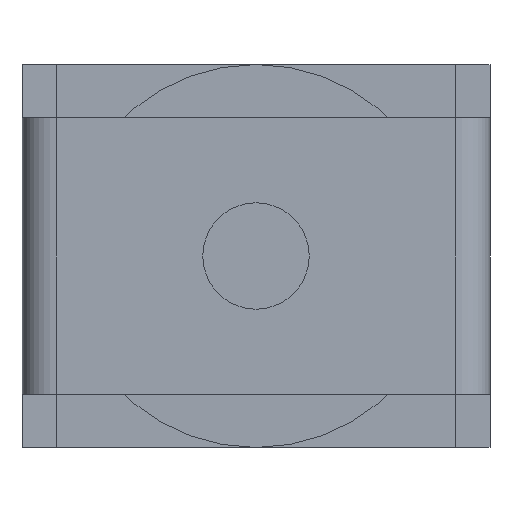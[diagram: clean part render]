
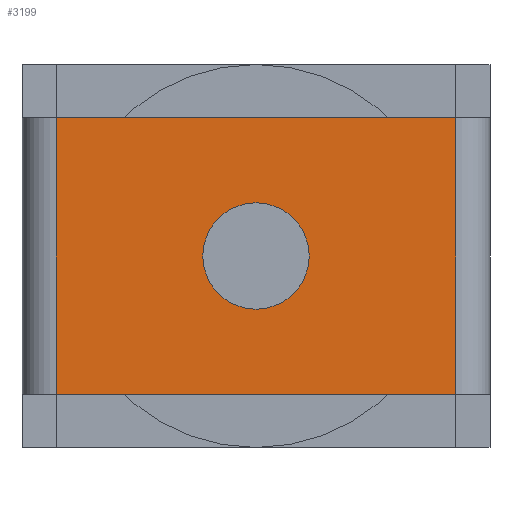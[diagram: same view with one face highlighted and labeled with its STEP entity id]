
A CAD part, front view. The second image highlights one B-rep face of the part: STEP entity #3199.
In plain terms, the highlighted planar face has unit normal (0, -1, 0).
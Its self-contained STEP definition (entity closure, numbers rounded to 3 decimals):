
#10 = EDGE_CURVE ( 'NONE', #1587, #2949, #391, .T. ) ;
#68 = EDGE_CURVE ( 'NONE', #2617, #3036, #2782, .T. ) ;
#138 = DIRECTION ( 'NONE',  ( 0., -1., 0. ) ) ;
#170 = ORIENTED_EDGE ( 'NONE', *, *, #699, .F. ) ;
#314 = VECTOR ( 'NONE', #1555, 1000. ) ;
#349 = VECTOR ( 'NONE', #1404, 1000. ) ;
#391 = LINE ( 'NONE', #1821, #314 ) ;
#411 = CARTESIAN_POINT ( 'NONE',  ( 9.4, -27., -2.5 ) ) ;
#501 = EDGE_CURVE ( 'NONE', #1587, #3036, #2173, .T. ) ;
#514 = CARTESIAN_POINT ( 'NONE',  ( 0., -27., -11.5 ) ) ;
#548 = CARTESIAN_POINT ( 'NONE',  ( 11., -27., -2.5 ) ) ;
#687 = EDGE_CURVE ( 'NONE', #2617, #2949, #2972, .T. ) ;
#699 = EDGE_CURVE ( 'NONE', #1528, #1087, #948, .T. ) ;
#749 = VECTOR ( 'NONE', #2591, 1000. ) ;
#772 = AXIS2_PLACEMENT_3D ( 'NONE', #2136, #2657, #1125 ) ;
#813 = ORIENTED_EDGE ( 'NONE', *, *, #68, .T. ) ;
#838 = VECTOR ( 'NONE', #993, 1000. ) ;
#905 = CARTESIAN_POINT ( 'NONE',  ( 0., -27., -9. ) ) ;
#948 = CIRCLE ( 'NONE', #1948, 2.5 ) ;
#993 = DIRECTION ( 'NONE',  ( 0., 0., 1. ) ) ;
#1087 = VERTEX_POINT ( 'NONE', #514 ) ;
#1125 = DIRECTION ( 'NONE',  ( 0., 0., 1. ) ) ;
#1146 = DIRECTION ( 'NONE',  ( 0., 0., 1. ) ) ;
#1182 = CARTESIAN_POINT ( 'NONE',  ( 0., -27., -6.5 ) ) ;
#1372 = PLANE ( 'NONE',  #772 ) ;
#1404 = DIRECTION ( 'NONE',  ( 0., 0., -1. ) ) ;
#1528 = VERTEX_POINT ( 'NONE', #1182 ) ;
#1555 = DIRECTION ( 'NONE',  ( 1., 0., 0. ) ) ;
#1587 = VERTEX_POINT ( 'NONE', #3070 ) ;
#1645 = ORIENTED_EDGE ( 'NONE', *, *, #1854, .F. ) ;
#1682 = CARTESIAN_POINT ( 'NONE',  ( 0., -27., -9. ) ) ;
#1703 = EDGE_LOOP ( 'NONE', ( #3297, #813, #2031, #2538 ) ) ;
#1799 = CARTESIAN_POINT ( 'NONE',  ( 9.4, -27., -15.5 ) ) ;
#1821 = CARTESIAN_POINT ( 'NONE',  ( -11., -27., -15.5 ) ) ;
#1847 = CARTESIAN_POINT ( 'NONE',  ( -9.4, -27., -2.5 ) ) ;
#1854 = EDGE_CURVE ( 'NONE', #1087, #1528, #2400, .T. ) ;
#1932 = DIRECTION ( 'NONE',  ( 0., 0., 1. ) ) ;
#1948 = AXIS2_PLACEMENT_3D ( 'NONE', #905, #2683, #1146 ) ;
#2031 = ORIENTED_EDGE ( 'NONE', *, *, #501, .F. ) ;
#2136 = CARTESIAN_POINT ( 'NONE',  ( -9.4, -27., -15.5 ) ) ;
#2173 = LINE ( 'NONE', #2776, #838 ) ;
#2400 = CIRCLE ( 'NONE', #2554, 2.5 ) ;
#2538 = ORIENTED_EDGE ( 'NONE', *, *, #10, .T. ) ;
#2554 = AXIS2_PLACEMENT_3D ( 'NONE', #1682, #138, #1932 ) ;
#2591 = DIRECTION ( 'NONE',  ( -1., 0., 0. ) ) ;
#2617 = VERTEX_POINT ( 'NONE', #411 ) ;
#2637 = FACE_BOUND ( 'NONE', #2773, .T. ) ;
#2657 = DIRECTION ( 'NONE',  ( 0., 1., 0. ) ) ;
#2673 = CARTESIAN_POINT ( 'NONE',  ( 9.4, -27., -15.5 ) ) ;
#2683 = DIRECTION ( 'NONE',  ( 0., -1., 0. ) ) ;
#2773 = EDGE_LOOP ( 'NONE', ( #170, #1645 ) ) ;
#2776 = CARTESIAN_POINT ( 'NONE',  ( -9.4, -27., -2.5 ) ) ;
#2782 = LINE ( 'NONE', #548, #749 ) ;
#2949 = VERTEX_POINT ( 'NONE', #1799 ) ;
#2972 = LINE ( 'NONE', #2673, #349 ) ;
#3036 = VERTEX_POINT ( 'NONE', #1847 ) ;
#3070 = CARTESIAN_POINT ( 'NONE',  ( -9.4, -27., -15.5 ) ) ;
#3199 = ADVANCED_FACE ( 'NONE', ( #3294, #2637 ), #1372, .F. ) ;
#3294 = FACE_OUTER_BOUND ( 'NONE', #1703, .T. ) ;
#3297 = ORIENTED_EDGE ( 'NONE', *, *, #687, .F. ) ;
